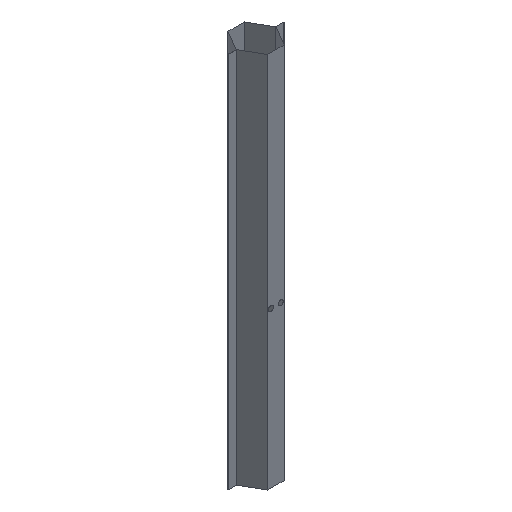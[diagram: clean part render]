
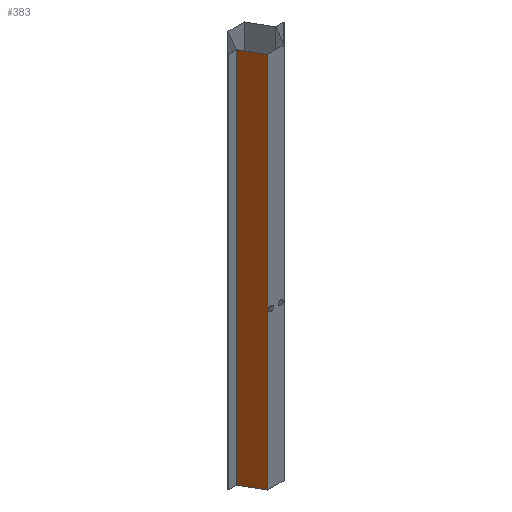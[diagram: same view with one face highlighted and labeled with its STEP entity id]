
A CAD part, isometric view. The second image highlights one B-rep face of the part: STEP entity #383.
In plain terms, the highlighted planar face has unit normal (-0.866, -0.5, 0).
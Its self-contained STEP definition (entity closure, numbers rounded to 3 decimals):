
#295=CARTESIAN_POINT('Vertex',(-100.,-241.,2280.)) ;
#298=CARTESIAN_POINT('Line Origine',(-100.,-241.,0.)) ;
#302=CARTESIAN_POINT('Vertex',(-100.,-241.,-2280.)) ;
#353=CARTESIAN_POINT('Axis2P3D Location',(-237.987,-2.,0.)) ;
#358=CARTESIAN_POINT('Line Origine',(-168.993,-121.5,2280.)) ;
#362=CARTESIAN_POINT('Vertex',(-237.987,-2.,2280.)) ;
#365=CARTESIAN_POINT('Line Origine',(-237.987,-2.,0.)) ;
#369=CARTESIAN_POINT('Vertex',(-237.987,-2.,-2280.)) ;
#372=CARTESIAN_POINT('Line Origine',(-168.993,-121.5,-2280.)) ;
#299=DIRECTION('Vector Direction',(0.,0.,1.)) ;
#354=DIRECTION('Axis2P3D Direction',(-0.866,-0.5,0.)) ;
#355=DIRECTION('Axis2P3D XDirection',(0.5,-0.866,0.)) ;
#359=DIRECTION('Vector Direction',(0.5,-0.866,0.)) ;
#366=DIRECTION('Vector Direction',(0.,0.,1.)) ;
#373=DIRECTION('Vector Direction',(0.5,-0.866,0.)) ;
#356=AXIS2_PLACEMENT_3D('Plane Axis2P3D',#353,#354,#355) ;
#378=ORIENTED_EDGE('',*,*,#364,.T.) ;
#379=ORIENTED_EDGE('',*,*,#371,.F.) ;
#380=ORIENTED_EDGE('',*,*,#376,.F.) ;
#381=ORIENTED_EDGE('',*,*,#304,.T.) ;
#300=VECTOR('Line Direction',#299,1.) ;
#360=VECTOR('Line Direction',#359,1.) ;
#367=VECTOR('Line Direction',#366,1.) ;
#374=VECTOR('Line Direction',#373,1.) ;
#383=ADVANCED_FACE('Split.1',(#382),#357,.T.) ;
#304=EDGE_CURVE('',#303,#296,#301,.T.) ;
#364=EDGE_CURVE('',#296,#363,#361,.F.) ;
#371=EDGE_CURVE('',#370,#363,#368,.T.) ;
#376=EDGE_CURVE('',#303,#370,#375,.F.) ;
#377=EDGE_LOOP('',(#378,#379,#380,#381)) ;
#382=FACE_OUTER_BOUND('',#377,.T.) ;
#301=LINE('Line',#298,#300) ;
#361=LINE('Line',#358,#360) ;
#368=LINE('Line',#365,#367) ;
#375=LINE('Line',#372,#374) ;
#357=PLANE('',#356) ;
#296=VERTEX_POINT('',#295) ;
#303=VERTEX_POINT('',#302) ;
#363=VERTEX_POINT('',#362) ;
#370=VERTEX_POINT('',#369) ;
